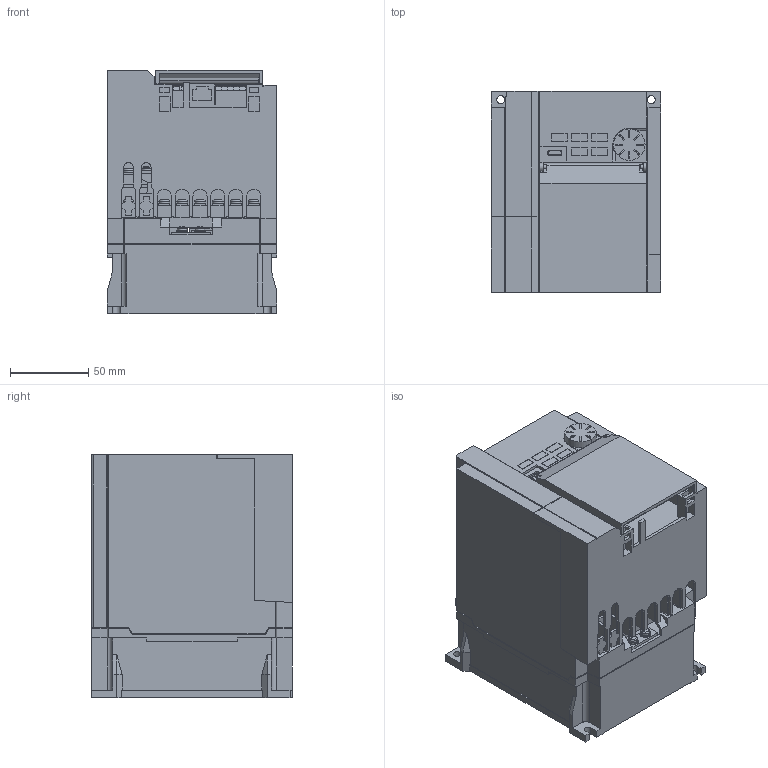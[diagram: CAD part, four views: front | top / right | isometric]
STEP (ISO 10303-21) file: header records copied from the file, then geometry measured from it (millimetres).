
FILE_DESCRIPTION((''),'2;1');
FILE_NAME('3D-INV-52_06_ASM','2024-11-26T14:21:08',('CT89920'),(''),'CREO PARAMETRIC BY PTC INC, 2022281','CREO PARAMETRIC BY PTC INC, 2022281','');
FILE_SCHEMA(('CONFIG_CONTROL_DESIGN','SHAPE_APPEARANCE_LAYERS_GROUPS'));
Length unit declared in the file: millimetre
Products named in the file (9): 3D-BASE-52_06; 3D-FAN_UNIT-51_05; 3D-TE_SHORT-31_06; 3D-TE_NEJI-M4X8-ZA7; 3D-TE-NEJI-31_04_ASM; 3D-SW-PW-P-M3_5X10; 3D-W_COV-52_06; 3D-S_COV-D80-1_5; 3D-INV-52_06_ASM
Assembly tree (18 placements, depth 3):
  3D-INV-52_06_ASM
    3D-BASE-52_06
    3D-FAN_UNIT-51_05
    3D-TE-NEJI-31_04_ASM
      3D-TE_SHORT-31_06
      3D-TE_NEJI-M4X8-ZA7  x10
    3D-SW-PW-P-M3_5X10  x2
    3D-W_COV-52_06
    3D-S_COV-D80-1_5
Bounding box: 108 x 128 x 155.5 mm (x, y, z)
Volume: 698627.3 mm3; surface area: 283509.8 mm2
Topology: 17 solids, 18 shells, 1352 faces, 3641 edges, 2345 vertices
Faces by surface type: plane 1089, cylinder 169, cone 28, torus 26, sphere 24, extrusion 16
Entity records: 46621 total; most frequent: CARTESIAN_POINT 7356, ORIENTED_EDGE 6518, DIRECTION 5961, EDGE_CURVE 3259, VECTOR 2903, LINE 2887, VERTEX_POINT 2137, PRESENTATION_STYLE_ASSIGNMENT 1793
